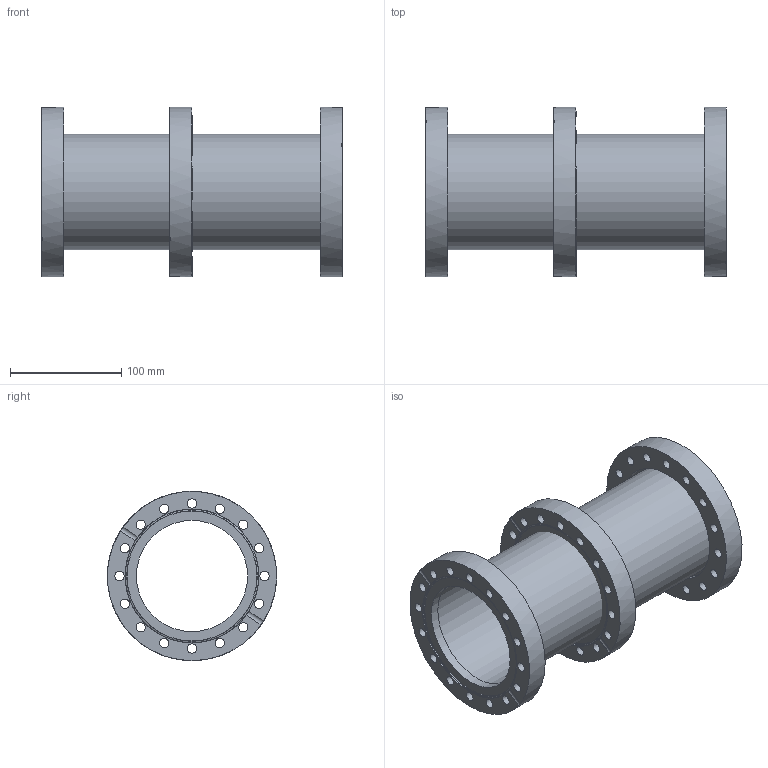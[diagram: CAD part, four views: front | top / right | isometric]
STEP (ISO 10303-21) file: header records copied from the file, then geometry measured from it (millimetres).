
FILE_DESCRIPTION( ( 'Unknown' ), '1' );
FILE_NAME( 'X:/Daten ( aktueller Bestand )/Projekte und Zeichnungen/Solid Edge/14 CF Verzweigungen/CF-Zwischenstück, 1 Flansch drehbar/7174R.stp', 'Unknown', ( 'Unknown' ), ( 'Unknown' ), 'XStep 1.0', 'Unknown', ' ' );
FILE_SCHEMA( ( 'automotive_design' ) );
Length unit declared in the file: millimetre
Products named in the file (6): Assem1; Assem2; 7514R-1; 7514R-2; 7174F-1; 7168F-2
Bounding box: 270 x 152 x 152 mm (x, y, z)
Volume: 1180434.8 mm3; surface area: 582731.5 mm2
Topology: 10 solids, 10 shells, 165 faces, 490 edges, 350 vertices
Faces by surface type: cylinder 120, plane 35, cone 10
Full cylindrical faces by diameter (mm): 8.4 x80, 100 x4, 100.5 x3, 104 x2, 104.3 x5, 109 x3, 120 x5, 120.6 x3, 152 x5
Entity records: 2305 total; most frequent: CARTESIAN_POINT 424, DIRECTION 344, ORIENTED_EDGE 224, EDGE_LOOP 188, AXIS2_PLACEMENT_3D 168, EDGE_CURVE 112, FACE_OUTER_BOUND 110, VERTEX_POINT 104
